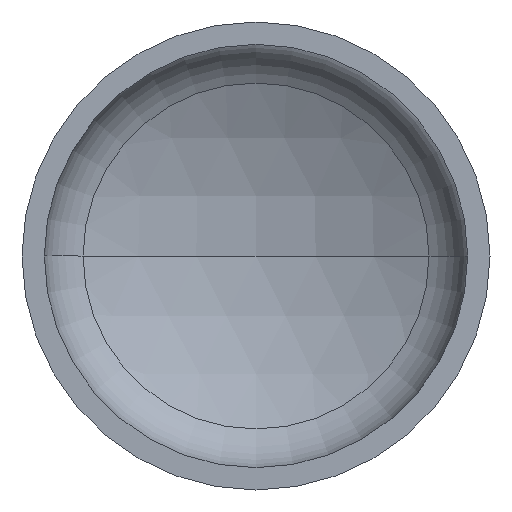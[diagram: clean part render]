
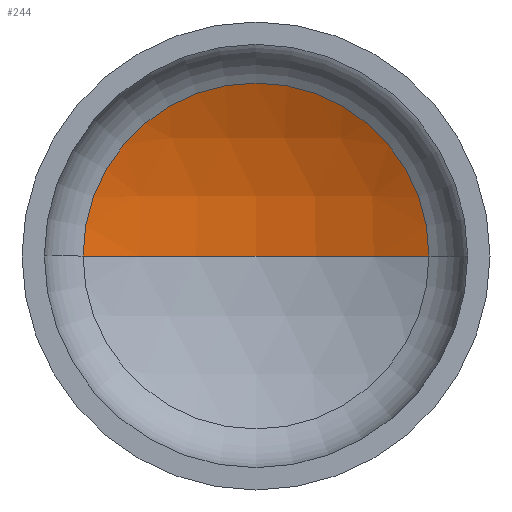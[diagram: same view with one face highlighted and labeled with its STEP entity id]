
A CAD part, front view. The second image highlights one B-rep face of the part: STEP entity #244.
In plain terms, the highlighted spherical face has radius 1040 mm.
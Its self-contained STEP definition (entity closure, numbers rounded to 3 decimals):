
#24 = AXIS2_PLACEMENT_3D ( 'NONE', #362, #166, #337 ) ;
#26 = EDGE_LOOP ( 'NONE', ( #301, #97, #133 ) ) ;
#27 = AXIS2_PLACEMENT_3D ( 'NONE', #183, #189, #399 ) ;
#34 = AXIS2_PLACEMENT_3D ( 'NONE', #178, #175, #176 ) ;
#55 = AXIS2_PLACEMENT_3D ( 'NONE', #212, #290, #223 ) ;
#72 = VERTEX_POINT ( 'NONE', #255 ) ;
#97 = ORIENTED_EDGE ( 'NONE', *, *, #346, .T. ) ;
#107 = CIRCLE ( 'NONE', #34, 480.381 ) ;
#113 = VERTEX_POINT ( 'NONE', #194 ) ;
#117 = VERTEX_POINT ( 'NONE', #230 ) ;
#133 = ORIENTED_EDGE ( 'NONE', *, *, #345, .T. ) ;
#166 = DIRECTION ( 'NONE',  ( 0., 0., 1. ) ) ;
#175 = DIRECTION ( 'NONE',  ( 0., -1., 0. ) ) ;
#176 = DIRECTION ( 'NONE',  ( 1., 0., 0. ) ) ;
#178 = CARTESIAN_POINT ( 'NONE',  ( 0., 297.386, 0. ) ) ;
#183 = CARTESIAN_POINT ( 'NONE',  ( 0., -625.021, 0. ) ) ;
#189 = DIRECTION ( 'NONE',  ( 0., 0., -1. ) ) ;
#194 = CARTESIAN_POINT ( 'NONE',  ( 0., 414.979, 0. ) ) ;
#203 = CIRCLE ( 'NONE', #27, 1040. ) ;
#212 = CARTESIAN_POINT ( 'NONE',  ( 0., -625.021, 0. ) ) ;
#223 = DIRECTION ( 'NONE',  ( -1., 0., 0. ) ) ;
#230 = CARTESIAN_POINT ( 'NONE',  ( 480.381, 297.386, 0. ) ) ;
#244 = ADVANCED_FACE ( 'NONE', ( #388 ), #342, .F. ) ;
#255 = CARTESIAN_POINT ( 'NONE',  ( -480.381, 297.386, 0. ) ) ;
#290 = DIRECTION ( 'NONE',  ( 0., 0., -1. ) ) ;
#301 = ORIENTED_EDGE ( 'NONE', *, *, #347, .F. ) ;
#318 = CIRCLE ( 'NONE', #24, 1040. ) ;
#337 = DIRECTION ( 'NONE',  ( 1., 0., 0. ) ) ;
#342 = SPHERICAL_SURFACE ( 'NONE', #55, 1040. ) ;
#345 = EDGE_CURVE ( 'NONE', #117, #72, #107, .T. ) ;
#346 = EDGE_CURVE ( 'NONE', #113, #117, #203, .T. ) ;
#347 = EDGE_CURVE ( 'NONE', #113, #72, #318, .T. ) ;
#362 = CARTESIAN_POINT ( 'NONE',  ( 0., -625.021, 0. ) ) ;
#388 = FACE_OUTER_BOUND ( 'NONE', #26, .T. ) ;
#399 = DIRECTION ( 'NONE',  ( -1., 0., 0. ) ) ;
